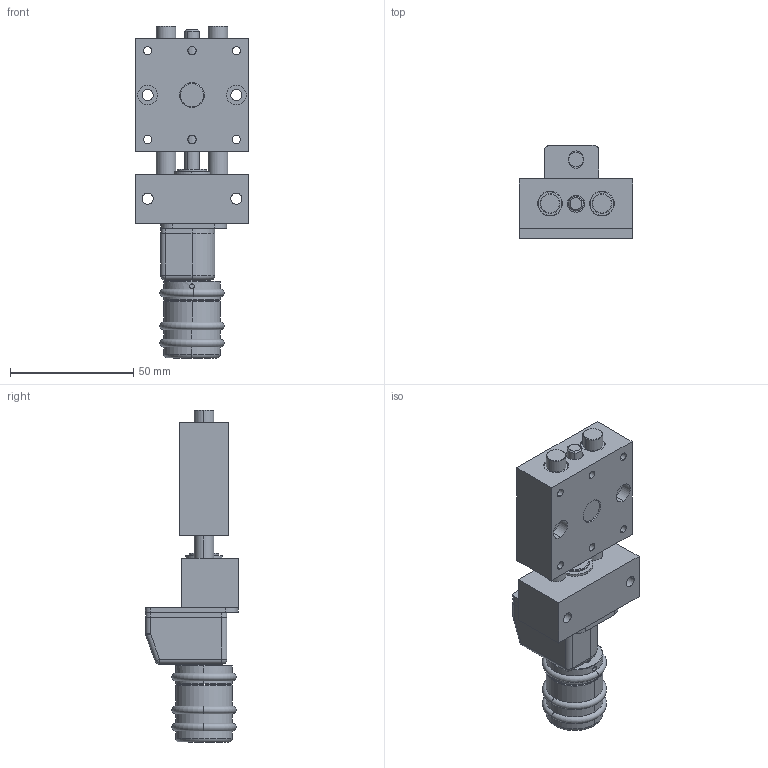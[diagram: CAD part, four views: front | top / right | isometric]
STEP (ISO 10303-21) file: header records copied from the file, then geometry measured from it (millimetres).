
FILE_DESCRIPTION (( 'STEP AP203' ), '1' );
FILE_NAME ('PT1408-PA-Positioniertisch.STEP', '2016-01-15T17:15:48', ( '' ), ( '' ), 'SwSTEP 2.0', 'SolidWorks 2014', '' );
FILE_SCHEMA (( 'CONFIG_CONTROL_DESIGN' ));
Length unit declared in the file: millimetre
Products named in the file (4): PT1408-000-01-Festteil-PA(E); PT08-000-02-Schlitten-komplett_n_Standard; PA0812-PTHT-000-Positionsanzeiger-komplett_n_Standard; PT1408-PA-Positioniertisch
Assembly tree (3 placements, depth 2):
  PT1408-PA-Positioniertisch
    PT1408-000-01-Festteil-PA(E)
    PT08-000-02-Schlitten-komplett_n_Standard
    PA0812-PTHT-000-Positionsanzeiger-komplett_n_Standard
Bounding box: 46 x 37.7 x 134.53 mm (x, y, z)
Volume: 85967 mm3; surface area: 35291.7 mm2
Topology: 5 solids, 5 shells, 393 faces, 957 edges, 609 vertices
Faces by surface type: cylinder 171, plane 129, cone 65, torus 15, sphere 7, bspline 6
Entity records: 13049 total; most frequent: CARTESIAN_POINT 3039, DIRECTION 2143, ORIENTED_EDGE 1900, EDGE_CURVE 950, AXIS2_PLACEMENT_3D 847, VERTEX_POINT 609, EDGE_LOOP 483, CIRCLE 454
